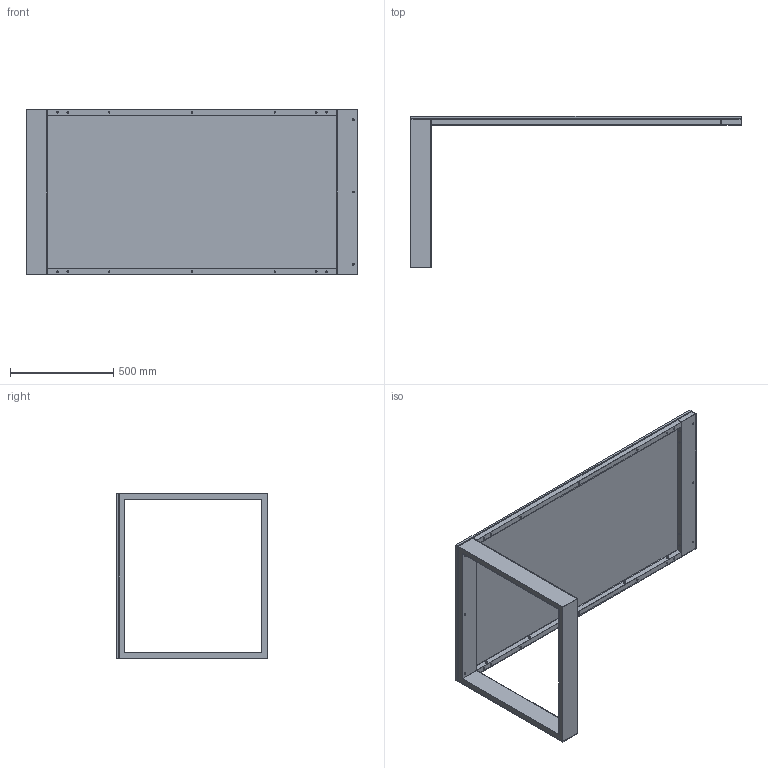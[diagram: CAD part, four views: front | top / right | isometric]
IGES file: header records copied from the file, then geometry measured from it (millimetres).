
Start section: SolidWorks IGES file using NURBS representation for surfaces
Global section: file name: G:\VICCARBE\PRODUCTOS\12-LEG-IN\04-MODELADOS (PLANOS)\SOLIDWORKS\LEG_IN 2011\ENSAMBLAJES\Mesas 3D\IGES\VICCARBE_LEB160A.IGS; native system: SolidWorks 2009; preprocessor: SolidWorks 2009; author: RUBEN; date: 111024.095336; units: millimetre
Bounding box: 1600 x 732 x 800 mm (x, y, z)
Surface area: 5128618.3 mm2 (no closed solid volume)
Topology: 0 solids, 0 shells, 207 faces, 4000 edges, 3976 vertices
Faces by surface type: bspline 207
